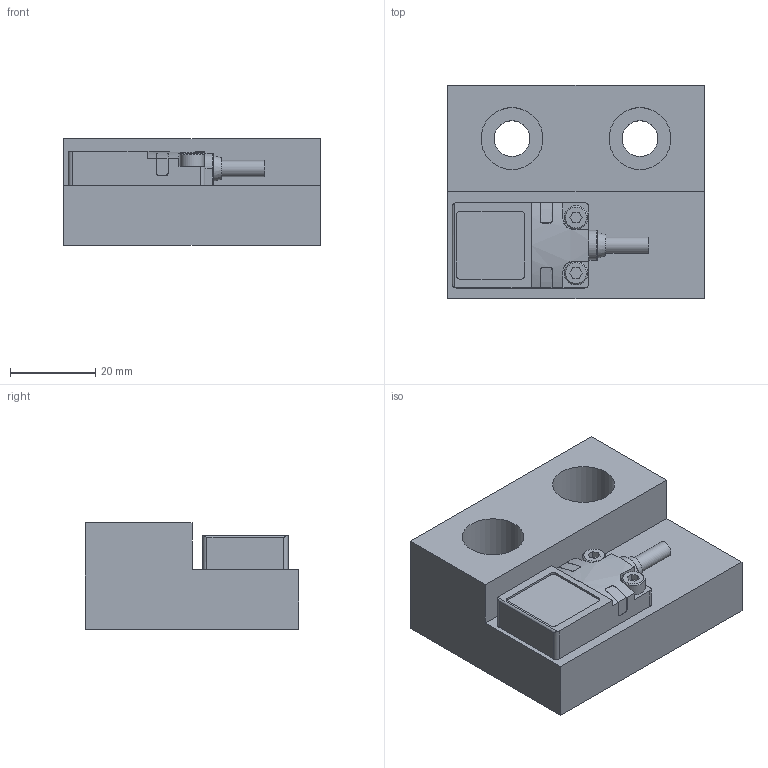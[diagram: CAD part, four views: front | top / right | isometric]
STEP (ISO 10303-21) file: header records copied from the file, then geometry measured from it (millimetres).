
FILE_DESCRIPTION(/* description */ ('PANCAKE STOP ASSEMBLY'),/* implementation_level */ '2;1');
FILE_NAME(/* name */ 'C:\Users\rcarver\Desktop\PANCAKE STOPS\WPS-01-XX.stp',/* time_stamp */ '2016-12-20T14:48:35-05:00',/* author */ ('rcarver'),/* organization */ (''),/* preprocessor_version */ 'ST-DEVELOPER v16.5',/* originating_system */ 'Autodesk Inventor 2017',/* authorisation */ '');
FILE_SCHEMA (('AUTOMOTIVE_DESIGN { 1 0 10303 214 3 1 1 }'));
Length unit declared in the file: millimetre
Products named in the file (4): WPSL01; WPSE01; NBB5-F104M-E2-C-200MM-V1; M3X0.5-8 SHCS
Assembly tree (4 placements, depth 2):
  WPSL01
    WPSE01
    NBB5-F104M-E2-C-200MM-V1
    M3X0.5-8 SHCS  x2
Bounding box: 60 x 50 x 25 mm (x, y, z)
Volume: 57855.3 mm3; surface area: 15645.4 mm2
Topology: 4 solids, 4 shells, 132 faces, 329 edges, 215 vertices
Faces by surface type: plane 77, cylinder 46, cone 7, torus 2
Full cylindrical faces by diameter (mm): 2.459 x2, 3 x2, 3.3 x2, 3.8 x1, 5.5 x2, 8.376 x2, 14.5 x2
Entity records: 3774 total; most frequent: CARTESIAN_POINT 734, DIRECTION 606, ORIENTED_EDGE 562, EDGE_CURVE 281, AXIS2_PLACEMENT_3D 215, VERTEX_POINT 194, LINE 176, VECTOR 176
